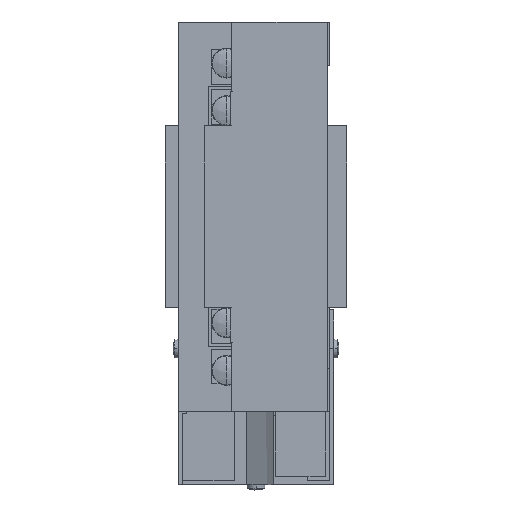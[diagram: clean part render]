
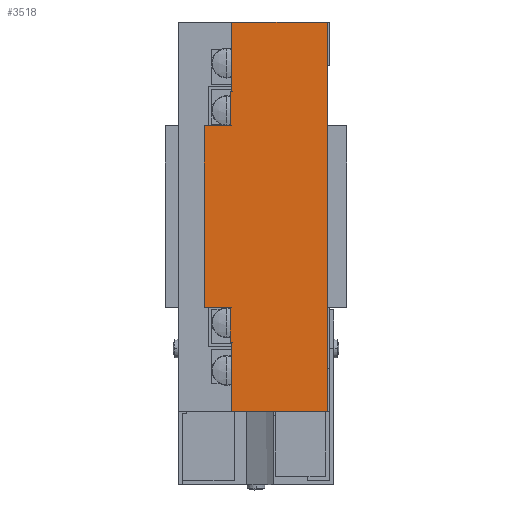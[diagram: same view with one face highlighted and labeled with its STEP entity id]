
A CAD part, left-side view. The second image highlights one B-rep face of the part: STEP entity #3518.
In plain terms, the highlighted planar face has unit normal (-1, 0, 0).
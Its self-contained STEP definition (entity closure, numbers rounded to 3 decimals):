
#3350 = VERTEX_POINT ( 'NONE', #10461 ) ;
#3352 = EDGE_CURVE ( 'NONE', #3350, #3353, #10355, .T. ) ;
#3353 = VERTEX_POINT ( 'NONE', #10351 ) ;
#3476 = ORIENTED_EDGE ( 'NONE', *, *, #3477, .T. ) ;
#3477 = EDGE_CURVE ( 'NONE', #3492, #3708, #10577, .T. ) ;
#3478 = ORIENTED_EDGE ( 'NONE', *, *, #3707, .F. ) ;
#3479 = ORIENTED_EDGE ( 'NONE', *, *, #3352, .F. ) ;
#3492 = VERTEX_POINT ( 'NONE', #10541 ) ;
#3498 = EDGE_CURVE ( 'NONE', #3492, #3756, #10699, .T. ) ;
#3518 = ADVANCED_FACE ( 'NONE', ( #10558 ), #10557, .F. ) ;
#3519 = EDGE_LOOP ( 'NONE', ( #3520, #3521, #3522, #3523, #3524, #3525, #3526, #3527, #3528, #3476, #3478, #3479 ) ) ;
#3520 = ORIENTED_EDGE ( 'NONE', *, *, #3687, .F. ) ;
#3521 = ORIENTED_EDGE ( 'NONE', *, *, #3665, .F. ) ;
#3522 = ORIENTED_EDGE ( 'NONE', *, *, #3675, .F. ) ;
#3523 = ORIENTED_EDGE ( 'NONE', *, *, #3607, .F. ) ;
#3524 = ORIENTED_EDGE ( 'NONE', *, *, #3746, .T. ) ;
#3525 = ORIENTED_EDGE ( 'NONE', *, *, #3775, .F. ) ;
#3526 = ORIENTED_EDGE ( 'NONE', *, *, #3566, .F. ) ;
#3527 = ORIENTED_EDGE ( 'NONE', *, *, #3758, .F. ) ;
#3528 = ORIENTED_EDGE ( 'NONE', *, *, #3498, .F. ) ;
#3566 = EDGE_CURVE ( 'NONE', #3759, #3681, #10584, .T. ) ;
#3607 = EDGE_CURVE ( 'NONE', #3770, #3751, #10620, .T. ) ;
#3612 = VERTEX_POINT ( 'NONE', #10605 ) ;
#3665 = EDGE_CURVE ( 'NONE', #3612, #3679, #10775, .T. ) ;
#3675 = EDGE_CURVE ( 'NONE', #3751, #3612, #10767, .T. ) ;
#3679 = VERTEX_POINT ( 'NONE', #10849 ) ;
#3681 = VERTEX_POINT ( 'NONE', #10848 ) ;
#3687 = EDGE_CURVE ( 'NONE', #3679, #3350, #10938, .T. ) ;
#3707 = EDGE_CURVE ( 'NONE', #3353, #3708, #10919, .T. ) ;
#3708 = VERTEX_POINT ( 'NONE', #10915 ) ;
#3746 = EDGE_CURVE ( 'NONE', #3770, #3776, #11020, .T. ) ;
#3751 = VERTEX_POINT ( 'NONE', #10828 ) ;
#3756 = VERTEX_POINT ( 'NONE', #10822 ) ;
#3758 = EDGE_CURVE ( 'NONE', #3756, #3759, #10821, .T. ) ;
#3759 = VERTEX_POINT ( 'NONE', #10877 ) ;
#3770 = VERTEX_POINT ( 'NONE', #10850 ) ;
#3775 = EDGE_CURVE ( 'NONE', #3681, #3776, #11045, .T. ) ;
#3776 = VERTEX_POINT ( 'NONE', #11041 ) ;
#10351 = CARTESIAN_POINT ( 'NONE',  ( -55., 0.5, 45. ) ) ;
#10352 = DIRECTION ( 'NONE',  ( 0., -1., 0. ) ) ;
#10353 = VECTOR ( 'NONE', #10352, 1000. ) ;
#10354 = CARTESIAN_POINT ( 'NONE',  ( -55., 29., 45. ) ) ;
#10355 = LINE ( 'NONE', #10354, #10353 ) ;
#10461 = CARTESIAN_POINT ( 'NONE',  ( -55., 22.629, 45. ) ) ;
#10541 = CARTESIAN_POINT ( 'NONE',  ( -55., 22.629, -45. ) ) ;
#10553 = DIRECTION ( 'NONE',  ( 0., 0., -1. ) ) ;
#10554 = DIRECTION ( 'NONE',  ( 1., 0., 0. ) ) ;
#10555 = CARTESIAN_POINT ( 'NONE',  ( -55., 29., 45. ) ) ;
#10556 = AXIS2_PLACEMENT_3D ( 'NONE', #10555, #10554, #10553 ) ;
#10557 = PLANE ( 'NONE',  #10556 ) ;
#10558 = FACE_OUTER_BOUND ( 'NONE', #3519, .T. ) ;
#10574 = DIRECTION ( 'NONE',  ( 0., -1., 0. ) ) ;
#10575 = VECTOR ( 'NONE', #10574, 1000. ) ;
#10576 = CARTESIAN_POINT ( 'NONE',  ( -55., 29., -45. ) ) ;
#10577 = LINE ( 'NONE', #10576, #10575 ) ;
#10581 = DIRECTION ( 'NONE',  ( 0., 0., 1. ) ) ;
#10582 = VECTOR ( 'NONE', #10581, 1000. ) ;
#10583 = CARTESIAN_POINT ( 'NONE',  ( -55., 22.949, 0. ) ) ;
#10584 = LINE ( 'NONE', #10583, #10582 ) ;
#10605 = CARTESIAN_POINT ( 'NONE',  ( -55., 22.949, 29. ) ) ;
#10617 = DIRECTION ( 'NONE',  ( 0., -1., 0. ) ) ;
#10618 = VECTOR ( 'NONE', #10617, 1000. ) ;
#10619 = CARTESIAN_POINT ( 'NONE',  ( -55., 29., 21. ) ) ;
#10620 = LINE ( 'NONE', #10619, #10618 ) ;
#10696 = DIRECTION ( 'NONE',  ( 0., 0., 1. ) ) ;
#10697 = VECTOR ( 'NONE', #10696, 1000. ) ;
#10698 = CARTESIAN_POINT ( 'NONE',  ( -55., 22.629, 0. ) ) ;
#10699 = LINE ( 'NONE', #10698, #10697 ) ;
#10760 = DIRECTION ( 'NONE',  ( 0., 0., 1. ) ) ;
#10761 = VECTOR ( 'NONE', #10760, 1000. ) ;
#10762 = CARTESIAN_POINT ( 'NONE',  ( -55., 22.949, 0. ) ) ;
#10767 = LINE ( 'NONE', #10762, #10761 ) ;
#10772 = DIRECTION ( 'NONE',  ( 0., -1., 0. ) ) ;
#10773 = VECTOR ( 'NONE', #10772, 1000. ) ;
#10774 = CARTESIAN_POINT ( 'NONE',  ( -55., 29., 29. ) ) ;
#10775 = LINE ( 'NONE', #10774, #10773 ) ;
#10818 = DIRECTION ( 'NONE',  ( 0., 1., 0. ) ) ;
#10819 = VECTOR ( 'NONE', #10818, 1000. ) ;
#10820 = CARTESIAN_POINT ( 'NONE',  ( -55., 29., -29. ) ) ;
#10821 = LINE ( 'NONE', #10820, #10819 ) ;
#10822 = CARTESIAN_POINT ( 'NONE',  ( -55., 22.629, -29. ) ) ;
#10828 = CARTESIAN_POINT ( 'NONE',  ( -55., 22.949, 21. ) ) ;
#10840 = DIRECTION ( 'NONE',  ( 0., 0., -1. ) ) ;
#10841 = VECTOR ( 'NONE', #10840, 1000. ) ;
#10842 = CARTESIAN_POINT ( 'NONE',  ( -55., 29., 45. ) ) ;
#10848 = CARTESIAN_POINT ( 'NONE',  ( -55., 22.949, -21. ) ) ;
#10849 = CARTESIAN_POINT ( 'NONE',  ( -55., 22.629, 29. ) ) ;
#10850 = CARTESIAN_POINT ( 'NONE',  ( -55., 29., 21. ) ) ;
#10877 = CARTESIAN_POINT ( 'NONE',  ( -55., 22.949, -29. ) ) ;
#10915 = CARTESIAN_POINT ( 'NONE',  ( -55., 0.5, -45. ) ) ;
#10916 = DIRECTION ( 'NONE',  ( 0., 0., -1. ) ) ;
#10917 = VECTOR ( 'NONE', #10916, 1000. ) ;
#10918 = CARTESIAN_POINT ( 'NONE',  ( -55., 0.5, 45. ) ) ;
#10919 = LINE ( 'NONE', #10918, #10917 ) ;
#10935 = DIRECTION ( 'NONE',  ( 0., 0., 1. ) ) ;
#10936 = VECTOR ( 'NONE', #10935, 1000. ) ;
#10937 = CARTESIAN_POINT ( 'NONE',  ( -55., 22.629, 0. ) ) ;
#10938 = LINE ( 'NONE', #10937, #10936 ) ;
#11020 = LINE ( 'NONE', #10842, #10841 ) ;
#11041 = CARTESIAN_POINT ( 'NONE',  ( -55., 29., -21. ) ) ;
#11042 = DIRECTION ( 'NONE',  ( 0., 1., 0. ) ) ;
#11043 = VECTOR ( 'NONE', #11042, 1000. ) ;
#11044 = CARTESIAN_POINT ( 'NONE',  ( -55., 29., -21. ) ) ;
#11045 = LINE ( 'NONE', #11044, #11043 ) ;
